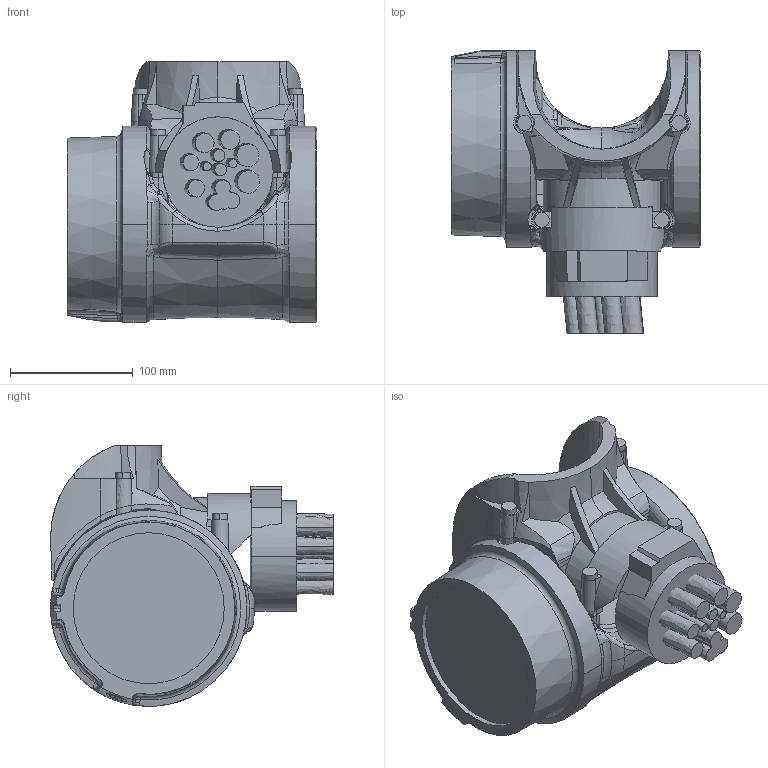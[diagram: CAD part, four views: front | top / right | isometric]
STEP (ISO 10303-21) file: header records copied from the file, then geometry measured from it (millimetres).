
FILE_DESCRIPTION (( 'STEP AP214' ), '1' );
FILE_NAME ('IRB5710-LID_90kg-230_OmniCore_rev00_LINK06_CABLE.step', '2025-07-07T14:15:11', ( '' ), ( '' ), 'SwSTEP 2.0', 'SolidWorks 2024', '' );
FILE_SCHEMA (( 'AUTOMOTIVE_DESIGN' ));
Length unit declared in the file: millimetre
Products named in the file (1): IRB5710-LID_90kg-230_OmniCore_rev00_LINK06_CABLE
Bounding box: 203.4 x 230.5 x 212.5 mm (x, y, z)
Volume: 61839 mm3; surface area: 291287.4 mm2
Topology: 5 solids, 6 shells, 677 faces, 1684 edges, 1020 vertices
Faces by surface type: bspline 283, plane 141, cylinder 116, torus 64, cone 55, sphere 18
Entity records: 43564 total; most frequent: CARTESIAN_POINT 29503, ORIENTED_EDGE 3330, DIRECTION 2102, EDGE_CURVE 1665, VERTEX_POINT 1020, AXIS2_PLACEMENT_3D 902, B_SPLINE_CURVE_WITH_KNOTS 809, EDGE_LOOP 707
